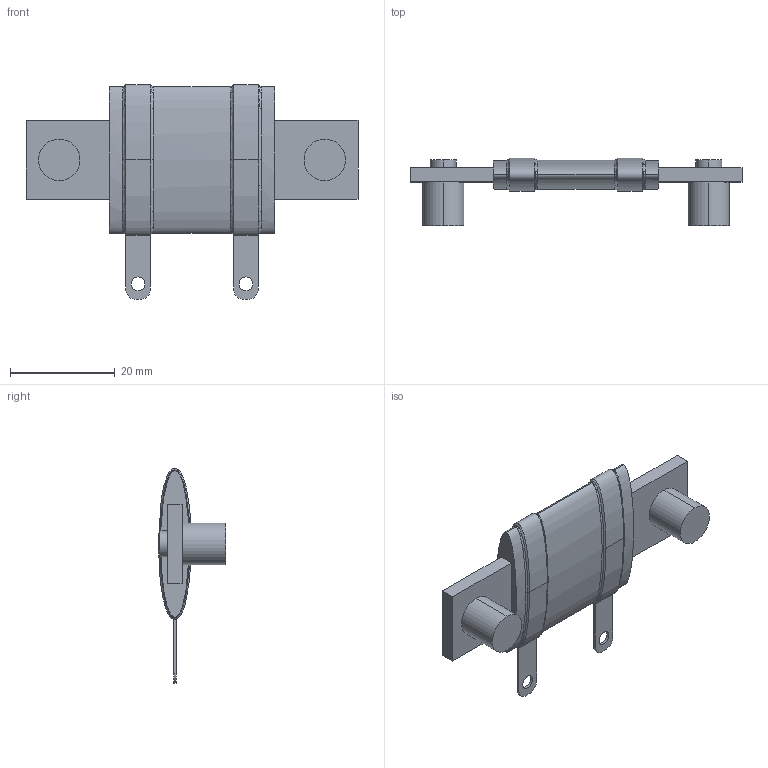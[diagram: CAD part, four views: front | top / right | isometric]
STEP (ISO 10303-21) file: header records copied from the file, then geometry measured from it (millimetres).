
FILE_DESCRIPTION (( 'STEP AP203' ), '1' );
FILE_NAME ('FSOT30-09E.STEP', '2019-11-04T15:52:40', ( '' ), ( '' ), 'SwSTEP 2.0', 'SolidWorks 2019', '' );
FILE_SCHEMA (( 'CONFIG_CONTROL_DESIGN' ));
Length unit declared in the file: millimetre
Products named in the file (1): FSOT30-09E
Bounding box: 63.51 x 12.91 x 41.12 mm (x, y, z)
Volume: 6360.8 mm3; surface area: 4005.4 mm2
Topology: 1 solids, 1 shells, 122 faces, 322 edges, 208 vertices
Faces by surface type: bspline 80, plane 26, cylinder 16
Entity records: 6447 total; most frequent: CARTESIAN_POINT 3891, ORIENTED_EDGE 644, DIRECTION 338, EDGE_CURVE 322, VERTEX_POINT 208, B_SPLINE_CURVE_WITH_KNOTS 158, AXIS2_PLACEMENT_3D 135, EDGE_LOOP 132
